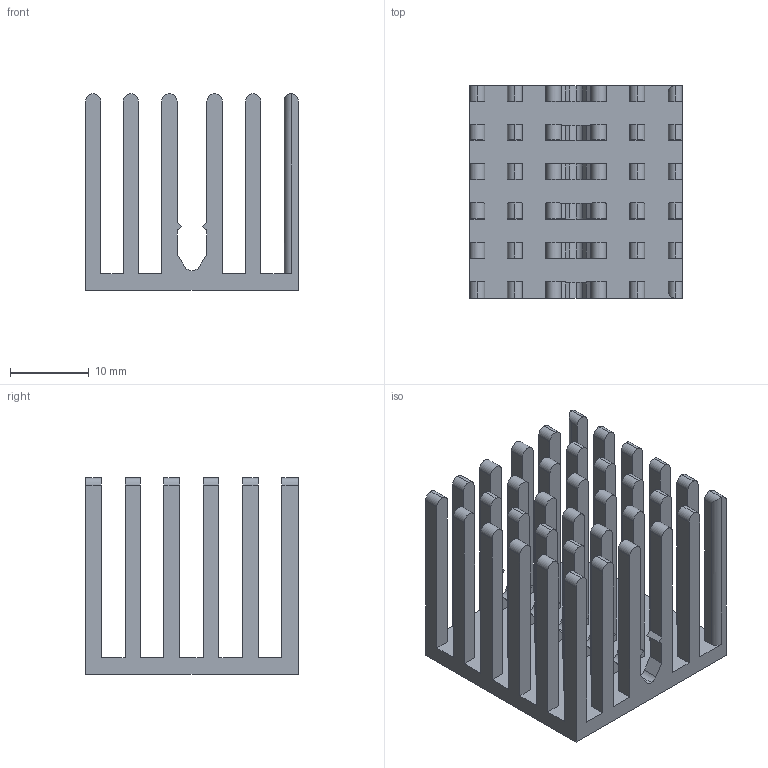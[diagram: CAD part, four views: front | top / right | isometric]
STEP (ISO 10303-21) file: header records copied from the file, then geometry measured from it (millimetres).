
FILE_DESCRIPTION(/* description */ ('Unknown'),/* implementation_level */ '2;1');
FILE_NAME(/* name */ 'HSB35-272725',/* time_stamp */ '2025-04-02T13:32:02+02:00',/* author */ ('Unknown'),/* organization */ ('Unknown'),/* preprocessor_version */ 'ST-DEVELOPER v18.102',/* originating_system */ 'Solid Edge',/* authorisation */ 'Unknown');
FILE_SCHEMA (('AUTOMOTIVE_DESIGN {1 0 10303 214 3 1 1}'));
Length unit declared in the file: millimetre
Products named in the file (1): HSB35-272725
Bounding box: 27 x 27 x 25 mm (x, y, z)
Volume: 4696.1 mm3; surface area: 8031.8 mm2
Topology: 1 solids, 1 shells, 256 faces, 726 edges, 484 vertices
Faces by surface type: plane 182, cylinder 74
Entity records: 8308 total; most frequent: CARTESIAN_POINT 1473, ORIENTED_EDGE 1452, DIRECTION 1384, EDGE_CURVE 726, LINE 578, VECTOR 578, VERTEX_POINT 484, AXIS2_PLACEMENT_3D 403
